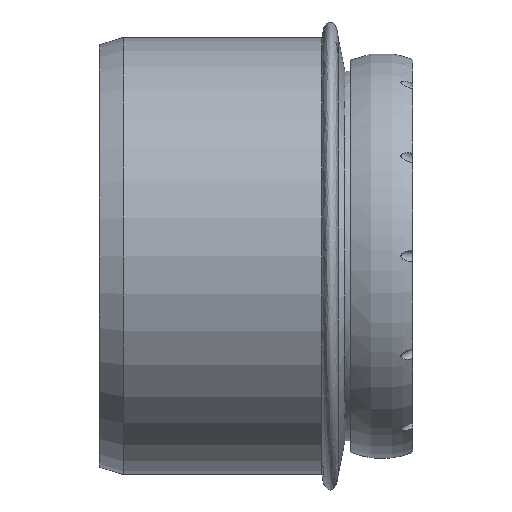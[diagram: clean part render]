
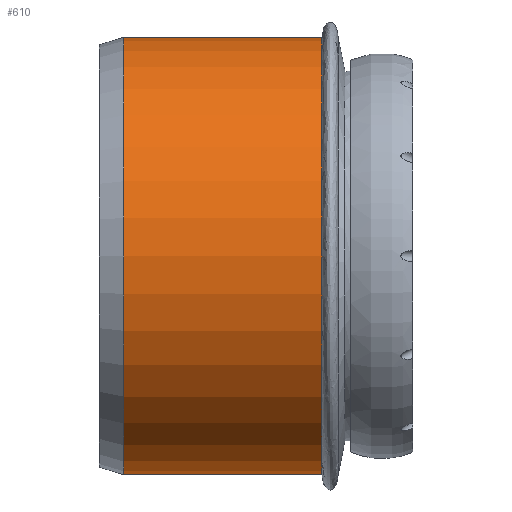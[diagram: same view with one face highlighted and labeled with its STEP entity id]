
A CAD part, front view. The second image highlights one B-rep face of the part: STEP entity #610.
In plain terms, the highlighted cylindrical face has radius 80.125 mm (diameter 160.25 mm), a full revolution.
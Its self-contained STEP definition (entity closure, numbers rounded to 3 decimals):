
#20=FACE_BOUND('',#147,.T.);
#74=CYLINDRICAL_SURFACE('',#694,80.125);
#107=FACE_OUTER_BOUND('',#146,.T.);
#146=EDGE_LOOP('',(#510));
#147=EDGE_LOOP('',(#511));
#193=CIRCLE('',#689,80.125);
#195=CIRCLE('',#693,80.125);
#283=VERTEX_POINT('',#1540);
#285=VERTEX_POINT('',#1547);
#364=EDGE_CURVE('',#283,#283,#193,.T.);
#366=EDGE_CURVE('',#285,#285,#195,.T.);
#510=ORIENTED_EDGE('',*,*,#364,.F.);
#511=ORIENTED_EDGE('',*,*,#366,.T.);
#610=ADVANCED_FACE('',(#107,#20),#74,.T.);
#689=AXIS2_PLACEMENT_3D('',#1542,#861,#862);
#693=AXIS2_PLACEMENT_3D('',#1548,#869,#870);
#694=AXIS2_PLACEMENT_3D('',#1549,#871,#872);
#861=DIRECTION('center_axis',(1.,0.,0.));
#862=DIRECTION('ref_axis',(0.,0.,-1.));
#869=DIRECTION('center_axis',(1.,0.,0.));
#870=DIRECTION('ref_axis',(0.,0.,-1.));
#871=DIRECTION('center_axis',(1.,0.,0.));
#872=DIRECTION('ref_axis',(0.,1.,0.));
#1540=CARTESIAN_POINT('',(81.6,91.255,0.));
#1542=CARTESIAN_POINT('Origin',(81.6,11.13,0.));
#1547=CARTESIAN_POINT('',(9.,91.255,0.));
#1548=CARTESIAN_POINT('Origin',(9.,11.13,0.));
#1549=CARTESIAN_POINT('Origin',(45.3,11.13,0.));
